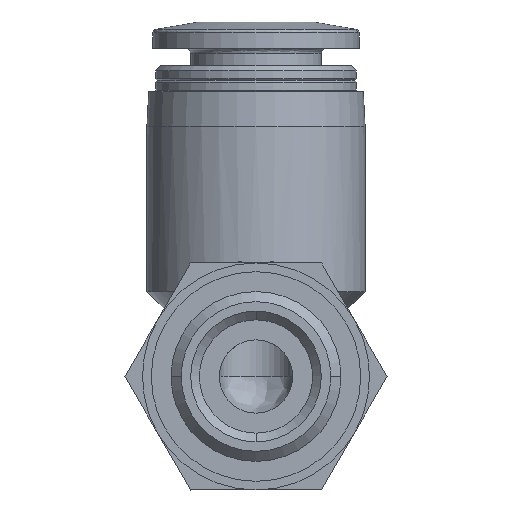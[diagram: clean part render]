
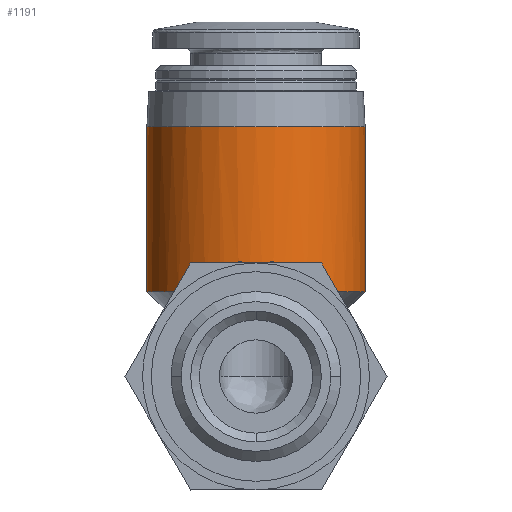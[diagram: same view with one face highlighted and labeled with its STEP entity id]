
A CAD part, front view. The second image highlights one B-rep face of the part: STEP entity #1191.
In plain terms, the highlighted cylindrical face has radius 6.25 mm (diameter 12.5 mm), a partial arc.
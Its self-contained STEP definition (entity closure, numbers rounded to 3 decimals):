
#116 = LINE ( 'NONE', #1976, #260 ) ;
#127 = ORIENTED_EDGE ( 'NONE', *, *, #1849, .T. ) ;
#135 = CARTESIAN_POINT ( 'NONE',  ( -1.353, 11.288, 5.085 ) ) ;
#136 = CARTESIAN_POINT ( 'NONE',  ( 0., 17.4, 4.85 ) ) ;
#151 = VERTEX_POINT ( 'NONE', #2416 ) ;
#189 = CARTESIAN_POINT ( 'NONE',  ( 1., 11.231, 0. ) ) ;
#191 = CARTESIAN_POINT ( 'NONE',  ( -1.689, 11.373, 4.983 ) ) ;
#217 = ORIENTED_EDGE ( 'NONE', *, *, #858, .T. ) ;
#260 = VECTOR ( 'NONE', #2194, 1000. ) ;
#266 = VERTEX_POINT ( 'NONE', #1852 ) ;
#273 = AXIS2_PLACEMENT_3D ( 'NONE', #136, #2035, #2715 ) ;
#309 = LINE ( 'NONE', #189, #387 ) ;
#346 = CARTESIAN_POINT ( 'NONE',  ( -6.25, 17.4, 0. ) ) ;
#379 = CARTESIAN_POINT ( 'NONE',  ( -1., 11.231, 0. ) ) ;
#387 = VECTOR ( 'NONE', #1133, 1000. ) ;
#508 = EDGE_CURVE ( 'NONE', #266, #1898, #1393, .T. ) ;
#569 =( BOUNDED_CURVE ( )  B_SPLINE_CURVE ( 3, ( #709, #2320, #1266, #1056 ),
 .UNSPECIFIED., .F., .T. ) 
 B_SPLINE_CURVE_WITH_KNOTS ( ( 4, 4 ),
 ( 2.981, 3.302 ),
 .UNSPECIFIED. ) 
 CURVE ( )  GEOMETRIC_REPRESENTATION_ITEM ( )  RATIONAL_B_SPLINE_CURVE ( ( 1., 0.991, 0.991, 1. ) ) 
 REPRESENTATION_ITEM ( '' )  );
#572 = CARTESIAN_POINT ( 'NONE',  ( 6.25, 17.4, 14.3 ) ) ;
#589 = VERTEX_POINT ( 'NONE', #2240 ) ;
#626 = EDGE_CURVE ( 'NONE', #2875, #954, #1558, .T. ) ;
#632 = CARTESIAN_POINT ( 'NONE',  ( 1.353, 11.288, 5.085 ) ) ;
#651 = ORIENTED_EDGE ( 'NONE', *, *, #508, .F. ) ;
#687 = ORIENTED_EDGE ( 'NONE', *, *, #626, .T. ) ;
#709 = CARTESIAN_POINT ( 'NONE',  ( -1., 11.231, 6.581 ) ) ;
#737 = LINE ( 'NONE', #379, #1871 ) ;
#775 = VERTEX_POINT ( 'NONE', #2467 ) ;
#858 = EDGE_CURVE ( 'NONE', #1705, #1827, #2460, .T. ) ;
#869 = EDGE_CURVE ( 'NONE', #266, #1381, #2069, .T. ) ;
#907 = CARTESIAN_POINT ( 'NONE',  ( 0., 17.4, 4.85 ) ) ;
#954 = VERTEX_POINT ( 'NONE', #2635 ) ;
#986 = DIRECTION ( 'NONE',  ( 0., 0., -1. ) ) ;
#1005 = ORIENTED_EDGE ( 'NONE', *, *, #869, .T. ) ;
#1045 = ORIENTED_EDGE ( 'NONE', *, *, #2257, .T. ) ;
#1056 = CARTESIAN_POINT ( 'NONE',  ( 1., 11.231, 6.581 ) ) ;
#1060 = CARTESIAN_POINT ( 'NONE',  ( -6.25, 17.4, 14.3 ) ) ;
#1069 = DIRECTION ( 'NONE',  ( 1., 0., 0. ) ) ;
#1095 = CARTESIAN_POINT ( 'NONE',  ( 1., 11.231, 5.154 ) ) ;
#1133 = DIRECTION ( 'NONE',  ( 0., 0., -1. ) ) ;
#1191 = ADVANCED_FACE ( 'NONE', ( #2360 ), #1364, .T. ) ;
#1249 = CARTESIAN_POINT ( 'NONE',  ( -1., 11.231, 5.154 ) ) ;
#1266 = CARTESIAN_POINT ( 'NONE',  ( 0.336, 11.123, 6.473 ) ) ;
#1322 = ORIENTED_EDGE ( 'NONE', *, *, #2932, .T. ) ;
#1364 = CYLINDRICAL_SURFACE ( 'NONE', #2672, 6.25 ) ;
#1381 = VERTEX_POINT ( 'NONE', #1779 ) ;
#1393 = B_SPLINE_CURVE_WITH_KNOTS ( 'NONE', 3,
 ( #1752, #2250, #632, #1095 ),
 .UNSPECIFIED., .F., .F.,
 ( 4, 4 ),
 ( 0., 0.001 ),
 .UNSPECIFIED. ) ;
#1521 = CARTESIAN_POINT ( 'NONE',  ( 0., 17.4, 0. ) ) ;
#1528 = AXIS2_PLACEMENT_3D ( 'NONE', #907, #2944, #2724 ) ;
#1557 = DIRECTION ( 'NONE',  ( 0., 0., -1. ) ) ;
#1558 = CIRCLE ( 'NONE', #273, 6.25 ) ;
#1604 = AXIS2_PLACEMENT_3D ( 'NONE', #2020, #986, #2955 ) ;
#1700 = EDGE_CURVE ( 'NONE', #2875, #1827, #1736, .T. ) ;
#1705 = VERTEX_POINT ( 'NONE', #572 ) ;
#1736 = LINE ( 'NONE', #346, #2933 ) ;
#1752 = CARTESIAN_POINT ( 'NONE',  ( 2.01, 11.482, 4.85 ) ) ;
#1775 = CARTESIAN_POINT ( 'NONE',  ( -2.01, 11.482, 4.85 ) ) ;
#1779 = CARTESIAN_POINT ( 'NONE',  ( 6.25, 17.4, 4.85 ) ) ;
#1827 = VERTEX_POINT ( 'NONE', #1060 ) ;
#1841 = ORIENTED_EDGE ( 'NONE', *, *, #2010, .F. ) ;
#1849 = EDGE_CURVE ( 'NONE', #1381, #1705, #116, .T. ) ;
#1852 = CARTESIAN_POINT ( 'NONE',  ( 2.01, 11.482, 4.85 ) ) ;
#1871 = VECTOR ( 'NONE', #1557, 1000. ) ;
#1898 = VERTEX_POINT ( 'NONE', #1953 ) ;
#1953 = CARTESIAN_POINT ( 'NONE',  ( 1., 11.231, 5.154 ) ) ;
#1976 = CARTESIAN_POINT ( 'NONE',  ( 6.25, 17.4, 0. ) ) ;
#2010 = EDGE_CURVE ( 'NONE', #589, #954, #2772, .T. ) ;
#2020 = CARTESIAN_POINT ( 'NONE',  ( 0., 17.4, 14.3 ) ) ;
#2021 = EDGE_LOOP ( 'NONE', ( #2431, #687, #1841, #2881, #1045, #1322, #651, #1005, #127, #217 ) ) ;
#2035 = DIRECTION ( 'NONE',  ( 0., 0., 1. ) ) ;
#2069 = CIRCLE ( 'NONE', #1528, 6.25 ) ;
#2194 = DIRECTION ( 'NONE',  ( 0., 0., 1. ) ) ;
#2228 = DIRECTION ( 'NONE',  ( 0., 0., 1. ) ) ;
#2240 = CARTESIAN_POINT ( 'NONE',  ( -1., 11.231, 5.154 ) ) ;
#2250 = CARTESIAN_POINT ( 'NONE',  ( 1.689, 11.373, 4.983 ) ) ;
#2257 = EDGE_CURVE ( 'NONE', #775, #151, #569, .T. ) ;
#2320 = CARTESIAN_POINT ( 'NONE',  ( -0.336, 11.123, 6.473 ) ) ;
#2360 = FACE_OUTER_BOUND ( 'NONE', #2021, .T. ) ;
#2416 = CARTESIAN_POINT ( 'NONE',  ( 1., 11.231, 6.581 ) ) ;
#2431 = ORIENTED_EDGE ( 'NONE', *, *, #1700, .F. ) ;
#2441 = DIRECTION ( 'NONE',  ( 0., 0., 1. ) ) ;
#2460 = CIRCLE ( 'NONE', #1604, 6.25 ) ;
#2467 = CARTESIAN_POINT ( 'NONE',  ( -1., 11.231, 6.581 ) ) ;
#2511 = CARTESIAN_POINT ( 'NONE',  ( -6.25, 17.4, 4.85 ) ) ;
#2635 = CARTESIAN_POINT ( 'NONE',  ( -2.01, 11.482, 4.85 ) ) ;
#2672 = AXIS2_PLACEMENT_3D ( 'NONE', #1521, #2228, #1069 ) ;
#2715 = DIRECTION ( 'NONE',  ( 1., 0., 0. ) ) ;
#2724 = DIRECTION ( 'NONE',  ( 1., 0., 0. ) ) ;
#2772 = B_SPLINE_CURVE_WITH_KNOTS ( 'NONE', 3,
 ( #1249, #135, #191, #1775 ),
 .UNSPECIFIED., .F., .F.,
 ( 4, 4 ),
 ( 0., 0.001 ),
 .UNSPECIFIED. ) ;
#2875 = VERTEX_POINT ( 'NONE', #2511 ) ;
#2881 = ORIENTED_EDGE ( 'NONE', *, *, #2940, .F. ) ;
#2932 = EDGE_CURVE ( 'NONE', #151, #1898, #309, .T. ) ;
#2933 = VECTOR ( 'NONE', #2441, 1000. ) ;
#2940 = EDGE_CURVE ( 'NONE', #775, #589, #737, .T. ) ;
#2944 = DIRECTION ( 'NONE',  ( 0., 0., 1. ) ) ;
#2955 = DIRECTION ( 'NONE',  ( 1., 0., 0. ) ) ;
